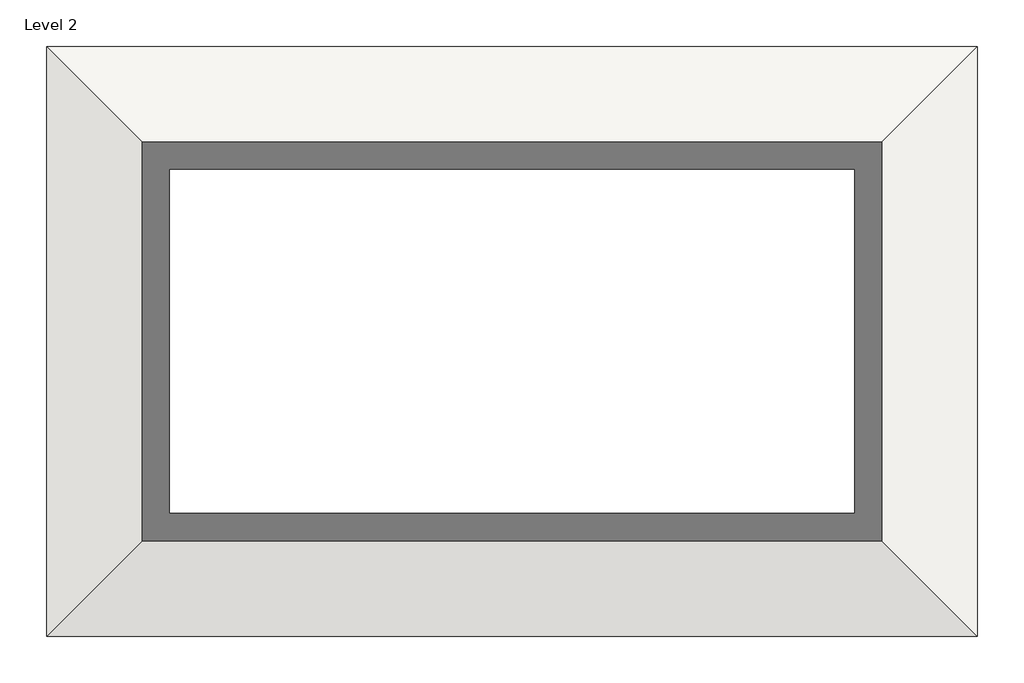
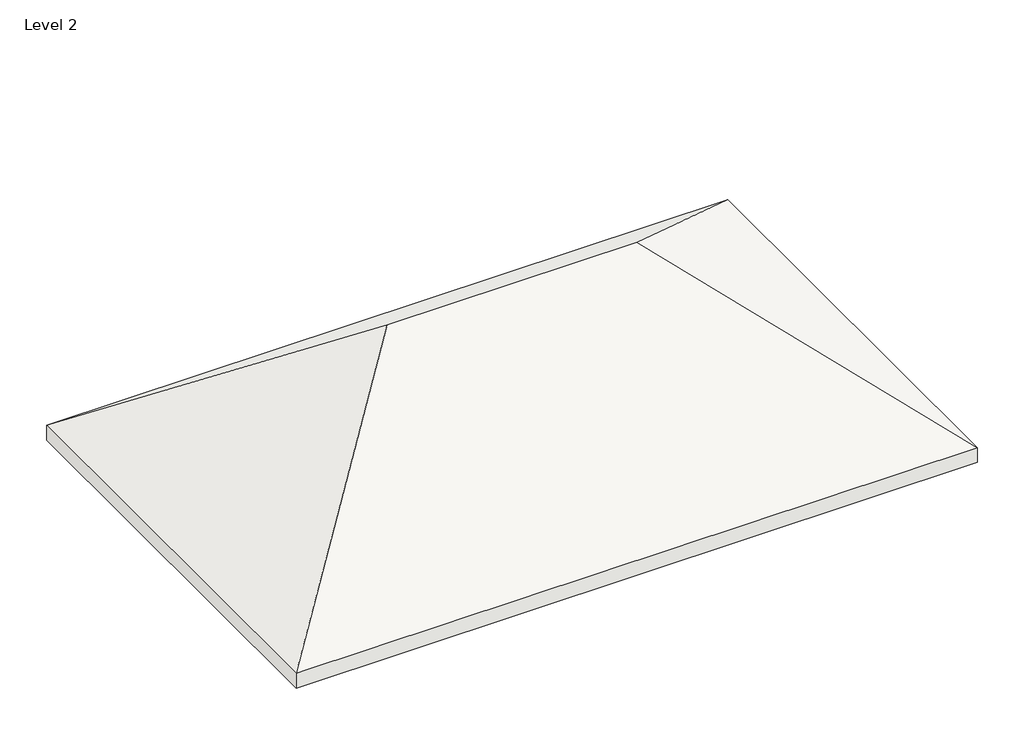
# One storey: 1 roof.
"""IFC4 building model written with IfcOpenShell, lengths in millimetres."""

import ifcopenshell
import ifcopenshell.guid

model = None  # the IFC model being written
_history = None  # IfcOwnerHistory: only IFC2X3 demands one
_inside = {}  # id of a spatial element -> (the spatial element, [elements in it])
_under = {}  # id of a project, library or spatial element -> (it, [spatial elements below it])
_declared = {}  # id of a project -> (the project, [libraries it declares])
_typed = {}  # id of a type object -> (the type object, [elements of that type])
_made_of = {}  # id of a material, layer set ... -> (it, [elements and type objects made of it])


def new_model(schema):
    """Start an empty IFC model of exactly this schema.

    Asked for "IFC4X3", IfcOpenShell would pick the latest addendum, in which some entities
    have other attributes; the version numbers below select the first issue.
    IFC2X3 requires an IfcOwnerHistory on every rooted entity: one is made here for all.
    """
    global model, _history
    if schema == "IFC4X3":
        model = ifcopenshell.file(schema_version=(4, 3, 0, 0))
    else:
        model = ifcopenshell.file(schema=schema)
    _inside.clear()
    _under.clear()
    _declared.clear()
    _typed.clear()
    _made_of.clear()
    _history = None
    if model.schema == "IFC2X3":
        org = make("IfcOrganization", Name="unknown")
        user = make(
            "IfcPersonAndOrganization",
            ThePerson=make("IfcPerson", FamilyName="unknown"),
            TheOrganization=org,
        )
        app = make(
            "IfcApplication",
            ApplicationDeveloper=org,
            Version="unknown",
            ApplicationFullName="unknown",
            ApplicationIdentifier="unknown",
        )
        _history = make(
            "IfcOwnerHistory",
            OwningUser=user,
            OwningApplication=app,
            ChangeAction="ADDED",
            CreationDate=0,
        )
    return model


def make(cls, **values):
    """One entity of the class cls with the attributes given. An attribute that is None is left unset."""
    return model.create_entity(
        cls, **{name: value for name, value in values.items() if value is not None}
    )


def rooted(cls, **values):
    """An entity with a GlobalId (a new one), such as an element, a storey or a relation."""
    return make(cls, GlobalId=ifcopenshell.guid.new(), OwnerHistory=_history, **values)


def si_unit(unit_type, name, prefix=None):
    """IfcSIUnit, for example si_unit("LENGTHUNIT", "METRE", prefix="MILLI")."""
    return make("IfcSIUnit", UnitType=unit_type, Prefix=prefix, Name=name)


def assignment(units):
    """IfcUnitAssignment: the units of a project."""
    return None if units is None else make("IfcUnitAssignment", Units=units)


def point(xyz):
    """IfcCartesianPoint."""
    return None if xyz is None else make("IfcCartesianPoint", Coordinates=xyz)


def direction(xyz):
    """IfcDirection."""
    return None if xyz is None else make("IfcDirection", DirectionRatios=xyz)


def frame(location, z_axis=None, x_axis=None):
    """IfcAxis2Placement3D, a coordinate frame: its origin and axes. An axis left out is left unset."""
    return make(
        "IfcAxis2Placement3D",
        Location=point(location),
        Axis=direction(z_axis),
        RefDirection=direction(x_axis),
    )


def origin():
    """The frame at (0, 0, 0) with its axes left unset."""
    return frame((0.0, 0.0, 0.0))


def place(relative_to, where):
    """IfcLocalPlacement: puts the frame where relative to a parent placement (None: the world)."""
    return make(
        "IfcLocalPlacement", PlacementRelTo=relative_to, RelativePlacement=where
    )


def context(
    kind, dimensions, precision=None, world=None, true_north=None, identifier=None
):
    """IfcGeometricRepresentationContext, for example the 3D "Model" context."""
    return make(
        "IfcGeometricRepresentationContext",
        ContextIdentifier=identifier,
        ContextType=kind,
        CoordinateSpaceDimension=dimensions,
        Precision=precision,
        WorldCoordinateSystem=world,
        TrueNorth=true_north,
    )


def project(units=None, contexts=None):
    """IfcProject with its units and contexts."""
    return rooted(
        "IfcProject",
        Name="project",
        RepresentationContexts=contexts,
        UnitsInContext=assignment(units),
    )


def spatial(cls, under=None, at=None, **own):
    """A site, building, storey or space (cls), placed at a placement, below another one or the project."""
    s = rooted(cls, ObjectPlacement=at, **own)
    if under is not None:
        _under.setdefault(under.id(), (under, []))[1].append(s)
    return s


def faces_of(points, faces, orient=None, outer=None):
    """IfcFace entities. A face is a list of loops; a loop is a list of indices into points, from 0.

    orient and outer hold one flag for each loop. By default every Orientation is true, the
    first loop of a face is its IfcFaceOuterBound and the others are IfcFaceBound.
    """
    made = []
    for i, loops in enumerate(faces):
        bounds = []
        for j, loop in enumerate(loops):
            is_outer = j == 0 if outer is None else outer[i][j]
            bounds.append(
                make(
                    "IfcFaceOuterBound" if is_outer else "IfcFaceBound",
                    Bound=make("IfcPolyLoop", Polygon=[points[k] for k in loop]),
                    Orientation=True if orient is None else orient[i][j],
                )
            )
        made.append(make("IfcFace", Bounds=bounds))
    return made


def faceted_brep(points, faces, orient=None, outer=None, voids=None):
    """IfcFacetedBrep: a solid bounded by flat faces; with voids (closed shells), ...WithVoids."""
    shared = [point(p) for p in points]
    hull = make("IfcClosedShell", CfsFaces=faces_of(shared, faces, orient, outer))
    if voids is None:
        return make("IfcFacetedBrep", Outer=hull)
    return make(
        "IfcFacetedBrepWithVoids",
        Outer=hull,
        Voids=[
            make(cls, CfsFaces=faces_of(shared, fs, o, b)) for cls, fs, o, b in voids
        ],
    )


def shape(context_of_items, identifier, shape_type, items):
    """IfcShapeRepresentation: the items that make up one representation, for example the "Body"."""
    return make(
        "IfcShapeRepresentation",
        ContextOfItems=context_of_items,
        RepresentationIdentifier=identifier,
        RepresentationType=shape_type,
        Items=items,
    )


def made_of(thing, what):
    """Note that an element or type object is made of a material, layer set ...; save() writes the relation."""
    if what is not None:
        _made_of.setdefault(what.id(), (what, []))[1].append(thing)
    return thing


def element(
    cls,
    number,
    at=None,
    inside=None,
    cuts=None,
    type_object=None,
    material=None,
    context=None,
    identifier="Body",
    shape_type=None,
    held_by="IfcProductDefinitionShape",
    body=None,
    shapes=None,
    **own,
):
    """One element of the class cls, such as IfcWall. Its Tag is "e" and its number.

    at: its placement. inside: the storey or other place that contains it. cuts: it is an
    opening in that element (IfcRelVoidsElement). A single representation is given by context,
    identifier, shape_type and body (its items); several are given by shapes. held_by: the class
    of the entity that holds the representations. save() writes the other relations.
    """
    e = rooted(cls, Tag="e%d" % number, ObjectPlacement=at, **own)
    if body is not None:
        shapes = [shape(context, identifier, shape_type, body)]
    if shapes is not None:
        e.Representation = make(held_by, Representations=shapes)
    if inside is not None:
        _inside.setdefault(inside.id(), (inside, []))[1].append(e)
    if cuts is not None:
        rooted(
            "IfcRelVoidsElement", RelatingBuildingElement=cuts, RelatedOpeningElement=e
        )
    if type_object is not None:
        _typed.setdefault(type_object.id(), (type_object, []))[1].append(e)
    return made_of(e, material)


def aggregate(whole, parts):
    """IfcRelAggregates: a whole, such as a stair, and the parts it consists of."""
    return rooted("IfcRelAggregates", RelatingObject=whole, RelatedObjects=parts)


def save(model, path):
    """Write the relations noted so far, then the file.

    IfcRelAggregates (storeys below a building ...), IfcRelContainedInSpatialStructure (elements
    in a storey), IfcRelDefinesByType, IfcRelAssociatesMaterial and IfcRelDeclares: one each for
    every whole, place, type object, material and project.
    """
    for whole, parts in _under.values():
        aggregate(whole, parts)
    for where, things in _inside.values():
        rooted(
            "IfcRelContainedInSpatialStructure",
            RelatedElements=things,
            RelatingStructure=where,
        )
    for kind, things in _typed.values():
        rooted("IfcRelDefinesByType", RelatedObjects=things, RelatingType=kind)
    for what, things in _made_of.values():
        rooted("IfcRelAssociatesMaterial", RelatedObjects=things, RelatingMaterial=what)
    for by, libraries in _declared.values():
        rooted("IfcRelDeclares", RelatingContext=by, RelatedDefinitions=libraries)
    model.write(path)


model = new_model("IFC4")

# Units and contexts
model_context = context("Model", 3, world=origin())
ifc_project = project(units=[si_unit("LENGTHUNIT", "METRE", prefix="MILLI")], contexts=[model_context])

# Site, building, storey
site = spatial("IfcSite", under=ifc_project)
building = spatial("IfcBuilding", under=site)
storey = spatial("IfcBuildingStorey", under=building, Name="Level 2", Elevation=3048.0)

# Roof
placement = place(None, origin())
element("IfcRoof", 1, ObjectType="Generic - 12\"", at=placement, inside=storey, context=model_context, shape_type="Brep", body=[
    faceted_brep([(3173.4533009, 2457.0122484, 6553.2), (8456.6533009, 7740.2122484, 2590.8), (8456.6533009, -2826.1877516, 2590.8), (-8205.7466991, 7740.2122484, 2590.8), (-2922.5466991, 2457.0122484, 6553.2), (-8205.7466991, -2826.1877516, 2590.8), (8456.6533009, 7740.2122484, 2971.8), (3173.4533009, 2457.0122484, 6934.2), (8456.6533009, -2826.1877516, 2971.8), (-8205.7466991, 7740.2122484, 2971.8), (-8205.7466991, -2826.1877516, 2971.8), (-2922.5466991, 2457.0122484, 6934.2)], [[[0, 1, 2]], [[3, 4, 5]], [[1, 0, 4, 3]], [[5, 4, 0, 2]], [[6, 7, 8]], [[9, 10, 11]], [[6, 9, 11, 7]], [[10, 8, 7, 11]], [[3, 9, 6, 1]], [[5, 10, 9, 3]], [[2, 8, 10, 5]], [[1, 6, 8, 2]]]),
])

save(model, "model.ifc")
